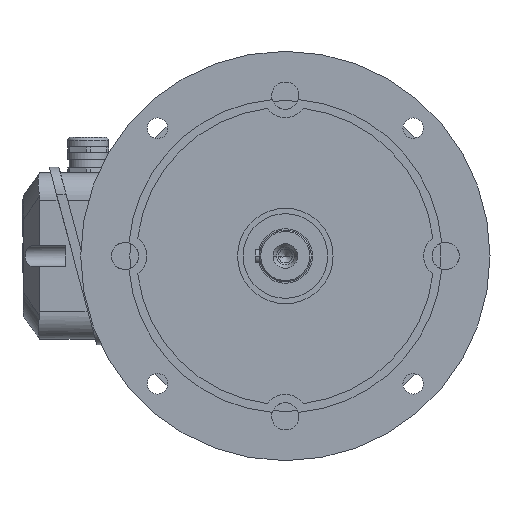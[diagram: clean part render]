
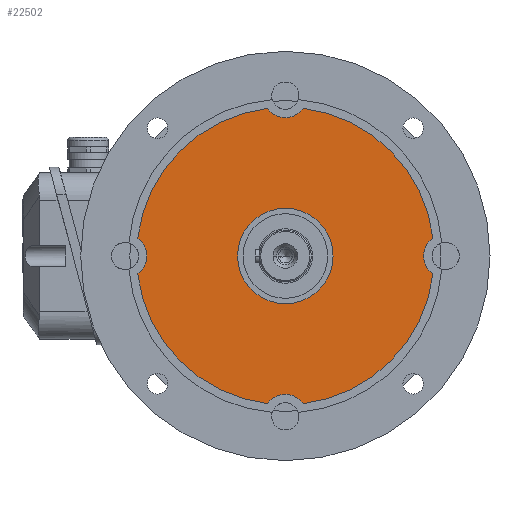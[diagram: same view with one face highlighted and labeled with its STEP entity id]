
A CAD part, left-side view. The second image highlights one B-rep face of the part: STEP entity #22502.
In plain terms, the highlighted planar face has unit normal (-1, 0, 0).
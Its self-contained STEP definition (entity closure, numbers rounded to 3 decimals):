
#101 = VERTEX_POINT ( 'NONE', #8503 ) ;
#301 = CIRCLE ( 'NONE', #15459, 16.1 ) ;
#692 = CARTESIAN_POINT ( 'NONE',  ( -59.2, 101.4, 0. ) ) ;
#774 = AXIS2_PLACEMENT_3D ( 'NONE', #12944, #13150, #20697 ) ;
#1609 = ORIENTED_EDGE ( 'NONE', *, *, #4853, .T. ) ;
#1673 = EDGE_CURVE ( 'NONE', #25754, #23392, #4728, .T. ) ;
#1732 = CIRCLE ( 'NONE', #4981, 109. ) ;
#1952 = CARTESIAN_POINT ( 'NONE',  ( -59.2, 0., 0. ) ) ;
#1992 = DIRECTION ( 'NONE',  ( 1., 0., 0. ) ) ;
#2457 = DIRECTION ( 'NONE',  ( 0., 1., 0. ) ) ;
#2523 = CARTESIAN_POINT ( 'NONE',  ( -59.2, 0., 0. ) ) ;
#3693 = FACE_BOUND ( 'NONE', #32723, .T. ) ;
#4621 = CARTESIAN_POINT ( 'NONE',  ( -59.2, 0., 0. ) ) ;
#4728 = CIRCLE ( 'NONE', #774, 16.1 ) ;
#4853 = EDGE_CURVE ( 'NONE', #16131, #25747, #13682, .T. ) ;
#4910 = FACE_OUTER_BOUND ( 'NONE', #13152, .T. ) ;
#4981 = AXIS2_PLACEMENT_3D ( 'NONE', #14489, #11835, #11951 ) ;
#5101 = DIRECTION ( 'NONE',  ( 0., 1., 0. ) ) ;
#5178 = EDGE_CURVE ( 'NONE', #28938, #25608, #24505, .T. ) ;
#5941 = VERTEX_POINT ( 'NONE', #21690 ) ;
#6211 = CARTESIAN_POINT ( 'NONE',  ( -59.2, 0., 117.5 ) ) ;
#6543 = EDGE_CURVE ( 'NONE', #5941, #20432, #30441, .T. ) ;
#6582 = PLANE ( 'NONE',  #21246 ) ;
#7373 = DIRECTION ( 'NONE',  ( 0., 1., 0. ) ) ;
#7390 = ORIENTED_EDGE ( 'NONE', *, *, #5178, .F. ) ;
#8503 = CARTESIAN_POINT ( 'NONE',  ( -59.2, -13.145, -108.204 ) ) ;
#8882 = DIRECTION ( 'NONE',  ( 1., 0., 0. ) ) ;
#9273 = CARTESIAN_POINT ( 'NONE',  ( -59.2, 0., 0. ) ) ;
#9690 = CIRCLE ( 'NONE', #19728, 16.1 ) ;
#10121 = AXIS2_PLACEMENT_3D ( 'NONE', #11901, #29833, #17052 ) ;
#10351 = ORIENTED_EDGE ( 'NONE', *, *, #28404, .F. ) ;
#10583 = EDGE_CURVE ( 'NONE', #23392, #25608, #301, .T. ) ;
#11510 = AXIS2_PLACEMENT_3D ( 'NONE', #6211, #8882, #27083 ) ;
#11835 = DIRECTION ( 'NONE',  ( 1., 0., 0. ) ) ;
#11901 = CARTESIAN_POINT ( 'NONE',  ( -59.2, 0., -117.5 ) ) ;
#11951 = DIRECTION ( 'NONE',  ( 0., 1., 0. ) ) ;
#12084 = ORIENTED_EDGE ( 'NONE', *, *, #25480, .T. ) ;
#12333 = EDGE_CURVE ( 'NONE', #26552, #101, #13373, .T. ) ;
#12726 = CIRCLE ( 'NONE', #19776, 109. ) ;
#12944 = CARTESIAN_POINT ( 'NONE',  ( -59.2, 117.5, 0. ) ) ;
#13150 = DIRECTION ( 'NONE',  ( 1., 0., 0. ) ) ;
#13152 = EDGE_LOOP ( 'NONE', ( #17111, #19035, #22860, #10351, #1609, #27633, #22619, #25973, #7390 ) ) ;
#13373 = CIRCLE ( 'NONE', #22625, 109. ) ;
#13682 = CIRCLE ( 'NONE', #11510, 16.1 ) ;
#14489 = CARTESIAN_POINT ( 'NONE',  ( -59.2, 0., 0. ) ) ;
#14725 = CARTESIAN_POINT ( 'NONE',  ( -59.2, -13.145, 108.204 ) ) ;
#14918 = AXIS2_PLACEMENT_3D ( 'NONE', #1952, #22697, #24936 ) ;
#14965 = DIRECTION ( 'NONE',  ( 0., -1., 0. ) ) ;
#15123 = CARTESIAN_POINT ( 'NONE',  ( -59.2, 0., 0. ) ) ;
#15146 = EDGE_CURVE ( 'NONE', #28938, #101, #19649, .T. ) ;
#15459 = AXIS2_PLACEMENT_3D ( 'NONE', #25765, #23202, #20733 ) ;
#16131 = VERTEX_POINT ( 'NONE', #14725 ) ;
#16429 = AXIS2_PLACEMENT_3D ( 'NONE', #4621, #17708, #2457 ) ;
#17052 = DIRECTION ( 'NONE',  ( 0., -1., 0. ) ) ;
#17111 = ORIENTED_EDGE ( 'NONE', *, *, #15146, .T. ) ;
#17708 = DIRECTION ( 'NONE',  ( 1., 0., 0. ) ) ;
#19035 = ORIENTED_EDGE ( 'NONE', *, *, #12333, .F. ) ;
#19649 = CIRCLE ( 'NONE', #10121, 16.1 ) ;
#19728 = AXIS2_PLACEMENT_3D ( 'NONE', #32498, #1992, #14965 ) ;
#19776 = AXIS2_PLACEMENT_3D ( 'NONE', #2523, #28171, #5101 ) ;
#20432 = VERTEX_POINT ( 'NONE', #24398 ) ;
#20541 = EDGE_CURVE ( 'NONE', #26552, #27688, #9690, .T. ) ;
#20697 = DIRECTION ( 'NONE',  ( 0., -1., 0. ) ) ;
#20733 = DIRECTION ( 'NONE',  ( 0., -1., 0. ) ) ;
#21246 = AXIS2_PLACEMENT_3D ( 'NONE', #24225, #26798, #32201 ) ;
#21407 = ORIENTED_EDGE ( 'NONE', *, *, #6543, .T. ) ;
#21690 = CARTESIAN_POINT ( 'NONE',  ( -59.2, 35., 0. ) ) ;
#22502 = ADVANCED_FACE ( 'NONE', ( #4910, #3693 ), #6582, .T. ) ;
#22619 = ORIENTED_EDGE ( 'NONE', *, *, #1673, .T. ) ;
#22625 = AXIS2_PLACEMENT_3D ( 'NONE', #9273, #24789, #32784 ) ;
#22697 = DIRECTION ( 'NONE',  ( 1., 0., 0. ) ) ;
#22860 = ORIENTED_EDGE ( 'NONE', *, *, #20541, .T. ) ;
#23202 = DIRECTION ( 'NONE',  ( 1., 0., 0. ) ) ;
#23392 = VERTEX_POINT ( 'NONE', #692 ) ;
#23576 = EDGE_CURVE ( 'NONE', #25754, #25747, #12726, .T. ) ;
#23862 = CARTESIAN_POINT ( 'NONE',  ( -59.2, 13.145, -108.204 ) ) ;
#24225 = CARTESIAN_POINT ( 'NONE',  ( -59.2, 35., 0. ) ) ;
#24398 = CARTESIAN_POINT ( 'NONE',  ( -59.2, -35., 0. ) ) ;
#24505 = CIRCLE ( 'NONE', #14918, 109. ) ;
#24789 = DIRECTION ( 'NONE',  ( 1., 0., 0. ) ) ;
#24936 = DIRECTION ( 'NONE',  ( 0., 1., 0. ) ) ;
#25312 = CARTESIAN_POINT ( 'NONE',  ( -59.2, -108.204, -13.145 ) ) ;
#25450 = CARTESIAN_POINT ( 'NONE',  ( -59.2, -108.204, 13.145 ) ) ;
#25480 = EDGE_CURVE ( 'NONE', #20432, #5941, #28200, .T. ) ;
#25608 = VERTEX_POINT ( 'NONE', #30944 ) ;
#25747 = VERTEX_POINT ( 'NONE', #31393 ) ;
#25754 = VERTEX_POINT ( 'NONE', #29009 ) ;
#25765 = CARTESIAN_POINT ( 'NONE',  ( -59.2, 117.5, 0. ) ) ;
#25973 = ORIENTED_EDGE ( 'NONE', *, *, #10583, .T. ) ;
#26055 = AXIS2_PLACEMENT_3D ( 'NONE', #15123, #27709, #7373 ) ;
#26552 = VERTEX_POINT ( 'NONE', #25312 ) ;
#26798 = DIRECTION ( 'NONE',  ( -1., 0., 0. ) ) ;
#27083 = DIRECTION ( 'NONE',  ( 0., -1., 0. ) ) ;
#27633 = ORIENTED_EDGE ( 'NONE', *, *, #23576, .F. ) ;
#27688 = VERTEX_POINT ( 'NONE', #25450 ) ;
#27709 = DIRECTION ( 'NONE',  ( 1., 0., 0. ) ) ;
#28171 = DIRECTION ( 'NONE',  ( 1., 0., 0. ) ) ;
#28200 = CIRCLE ( 'NONE', #26055, 35. ) ;
#28404 = EDGE_CURVE ( 'NONE', #16131, #27688, #1732, .T. ) ;
#28938 = VERTEX_POINT ( 'NONE', #23862 ) ;
#29009 = CARTESIAN_POINT ( 'NONE',  ( -59.2, 108.204, 13.145 ) ) ;
#29833 = DIRECTION ( 'NONE',  ( 1., 0., 0. ) ) ;
#30441 = CIRCLE ( 'NONE', #16429, 35. ) ;
#30944 = CARTESIAN_POINT ( 'NONE',  ( -59.2, 108.204, -13.145 ) ) ;
#31393 = CARTESIAN_POINT ( 'NONE',  ( -59.2, 13.145, 108.204 ) ) ;
#32201 = DIRECTION ( 'NONE',  ( 0., 0., 1. ) ) ;
#32498 = CARTESIAN_POINT ( 'NONE',  ( -59.2, -117.5, 0. ) ) ;
#32723 = EDGE_LOOP ( 'NONE', ( #21407, #12084 ) ) ;
#32784 = DIRECTION ( 'NONE',  ( 0., 1., 0. ) ) ;
